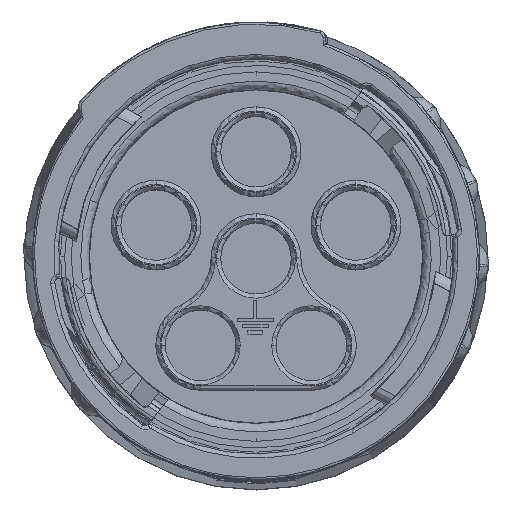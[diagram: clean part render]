
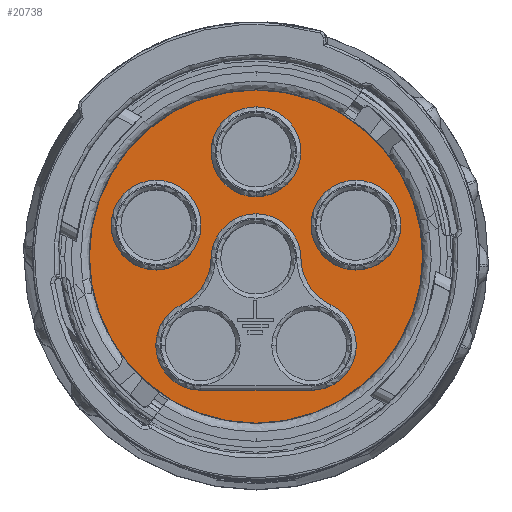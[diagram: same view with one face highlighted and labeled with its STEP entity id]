
A CAD part, top view. The second image highlights one B-rep face of the part: STEP entity #20738.
In plain terms, the highlighted planar face has unit normal (0, 0, 1).
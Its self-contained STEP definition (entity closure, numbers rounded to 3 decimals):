
#808 = ORIENTED_EDGE ( 'NONE', *, *, #3790, .T. ) ;
#1075 = ORIENTED_EDGE ( 'NONE', *, *, #70881, .T. ) ;
#3790 = EDGE_CURVE ( 'NONE', #67238, #34774, #51478, .T. ) ;
#4089 = DIRECTION ( 'NONE',  ( -1., 0., 0. ) ) ;
#8373 = EDGE_LOOP ( 'NONE', ( #19849, #808, #22223, #18314, #53133, #105508, #73187 ) ) ;
#9440 = VECTOR ( 'NONE', #4089, 1000. ) ;
#10987 = DIRECTION ( 'NONE',  ( 0., 0., 1. ) ) ;
#11704 = CARTESIAN_POINT ( 'NONE',  ( 4.675, 1.467, 679.7 ) ) ;
#11847 = CARTESIAN_POINT ( 'NONE',  ( 4.599, -0.021, 679.7 ) ) ;
#12047 = FACE_BOUND ( 'NONE', #87916, .T. ) ;
#12188 = EDGE_LOOP ( 'NONE', ( #53317, #69734 ) ) ;
#13072 = DIRECTION ( 'NONE',  ( 0., 0., -1. ) ) ;
#13661 = DIRECTION ( 'NONE',  ( 1., 0., 0. ) ) ;
#16404 = VERTEX_POINT ( 'NONE', #70785 ) ;
#17188 = EDGE_CURVE ( 'NONE', #65934, #38911, #31789, .T. ) ;
#17493 = VERTEX_POINT ( 'NONE', #86057 ) ;
#18314 = ORIENTED_EDGE ( 'NONE', *, *, #54120, .T. ) ;
#18472 = EDGE_CURVE ( 'NONE', #92286, #99213, #28796, .T. ) ;
#19849 = ORIENTED_EDGE ( 'NONE', *, *, #69137, .F. ) ;
#20738 = ADVANCED_FACE ( 'NONE', ( #88211, #12047, #30678, #51815, #61387 ), #63370, .T. ) ;
#21387 = CARTESIAN_POINT ( 'NONE',  ( 0., -0.1, 679.7 ) ) ;
#21804 = CARTESIAN_POINT ( 'NONE',  ( 2.1, -0.064, 679.7 ) ) ;
#21812 = DIRECTION ( 'NONE',  ( 1., 0., 0. ) ) ;
#22223 = ORIENTED_EDGE ( 'NONE', *, *, #53262, .T. ) ;
#22453 = DIRECTION ( 'NONE',  ( 1., 0., 0. ) ) ;
#22499 = CIRCLE ( 'NONE', #53366, 2.1 ) ;
#22868 = AXIS2_PLACEMENT_3D ( 'NONE', #21387, #104665, #22453 ) ;
#24899 = CARTESIAN_POINT ( 'NONE',  ( -4.599, -0.021, 679.7 ) ) ;
#26882 = CIRCLE ( 'NONE', #85238, 2.1 ) ;
#27379 = CARTESIAN_POINT ( 'NONE',  ( -2.1, -0.064, 679.7 ) ) ;
#27789 = DIRECTION ( 'NONE',  ( 1., 0., 0. ) ) ;
#28670 = CARTESIAN_POINT ( 'NONE',  ( -4.675, 1.467, 679.7 ) ) ;
#28796 = CIRCLE ( 'NONE', #97398, 7.798 ) ;
#29027 = DIRECTION ( 'NONE',  ( 0., 0., -1. ) ) ;
#30678 = FACE_BOUND ( 'NONE', #65446, .T. ) ;
#31789 = CIRCLE ( 'NONE', #91866, 2.1 ) ;
#33495 = DIRECTION ( 'NONE',  ( 1., 0., 0. ) ) ;
#33555 = ORIENTED_EDGE ( 'NONE', *, *, #103617, .T. ) ;
#34738 = DIRECTION ( 'NONE',  ( 1., 0., 0. ) ) ;
#34774 = VERTEX_POINT ( 'NONE', #104321 ) ;
#36035 = CIRCLE ( 'NONE', #97812, 2.1 ) ;
#37414 = CARTESIAN_POINT ( 'NONE',  ( 4.675, 1.467, 679.7 ) ) ;
#38911 = VERTEX_POINT ( 'NONE', #58027 ) ;
#39010 = DIRECTION ( 'NONE',  ( 1., 0., 0. ) ) ;
#40649 = CARTESIAN_POINT ( 'NONE',  ( 7.798, 0., 679.7 ) ) ;
#41446 = VERTEX_POINT ( 'NONE', #21804 ) ;
#41620 = DIRECTION ( 'NONE',  ( 1., 0., 0. ) ) ;
#41862 = CIRCLE ( 'NONE', #79552, 7.798 ) ;
#43814 = CARTESIAN_POINT ( 'NONE',  ( -2.1, 4.9, 679.7 ) ) ;
#44488 = AXIS2_PLACEMENT_3D ( 'NONE', #11704, #70727, #103583 ) ;
#46430 = EDGE_CURVE ( 'NONE', #38911, #65934, #88223, .T. ) ;
#46450 = DIRECTION ( 'NONE',  ( 1., 0., 0. ) ) ;
#47065 = DIRECTION ( 'NONE',  ( 0., 0., -1. ) ) ;
#47402 = CIRCLE ( 'NONE', #81768, 2.5 ) ;
#49744 = AXIS2_PLACEMENT_3D ( 'NONE', #70022, #54434, #46450 ) ;
#50169 = DIRECTION ( 'NONE',  ( 0., 0., -1. ) ) ;
#51419 = EDGE_CURVE ( 'NONE', #82396, #41446, #78012, .T. ) ;
#51478 = CIRCLE ( 'NONE', #49744, 2.1 ) ;
#51815 = FACE_OUTER_BOUND ( 'NONE', #12188, .T. ) ;
#52420 = CARTESIAN_POINT ( 'NONE',  ( 0., 0., 679.7 ) ) ;
#53133 = ORIENTED_EDGE ( 'NONE', *, *, #58340, .T. ) ;
#53205 = CIRCLE ( 'NONE', #85841, 2.1 ) ;
#53262 = EDGE_CURVE ( 'NONE', #34774, #17493, #93848, .T. ) ;
#53317 = ORIENTED_EDGE ( 'NONE', *, *, #77370, .T. ) ;
#53366 = AXIS2_PLACEMENT_3D ( 'NONE', #91558, #67319, #41620 ) ;
#54120 = EDGE_CURVE ( 'NONE', #17493, #94859, #55870, .T. ) ;
#54434 = DIRECTION ( 'NONE',  ( 0., 0., -1. ) ) ;
#54509 = ORIENTED_EDGE ( 'NONE', *, *, #61832, .T. ) ;
#54985 = CARTESIAN_POINT ( 'NONE',  ( -2.591, -4.159, 679.7 ) ) ;
#55521 = AXIS2_PLACEMENT_3D ( 'NONE', #99663, #106151, #82485 ) ;
#55870 = CIRCLE ( 'NONE', #98903, 2.1 ) ;
#57819 = CARTESIAN_POINT ( 'NONE',  ( 3.508, -2.27, 679.7 ) ) ;
#58027 = CARTESIAN_POINT ( 'NONE',  ( -2.575, 1.467, 679.7 ) ) ;
#58147 = CIRCLE ( 'NONE', #90871, 2.5 ) ;
#58340 = EDGE_CURVE ( 'NONE', #94859, #98662, #53205, .T. ) ;
#59372 = DIRECTION ( 'NONE',  ( 0., 0., 1. ) ) ;
#60988 = DIRECTION ( 'NONE',  ( 0., 0., -1. ) ) ;
#61387 = FACE_BOUND ( 'NONE', #8373, .T. ) ;
#61832 = EDGE_CURVE ( 'NONE', #81561, #91900, #26882, .T. ) ;
#61919 = DIRECTION ( 'NONE',  ( 1., 0., 0. ) ) ;
#63370 = PLANE ( 'NONE',  #101316 ) ;
#65446 = EDGE_LOOP ( 'NONE', ( #54509, #1075 ) ) ;
#65934 = VERTEX_POINT ( 'NONE', #85197 ) ;
#66405 = ORIENTED_EDGE ( 'NONE', *, *, #46430, .T. ) ;
#67238 = VERTEX_POINT ( 'NONE', #57819 ) ;
#67319 = DIRECTION ( 'NONE',  ( 0., 0., -1. ) ) ;
#69137 = EDGE_CURVE ( 'NONE', #67238, #41446, #47402, .T. ) ;
#69734 = ORIENTED_EDGE ( 'NONE', *, *, #18472, .T. ) ;
#70006 = CARTESIAN_POINT ( 'NONE',  ( 0., 0., 679.7 ) ) ;
#70022 = CARTESIAN_POINT ( 'NONE',  ( 2.591, -4.159, 679.7 ) ) ;
#70102 = CIRCLE ( 'NONE', #44488, 2.1 ) ;
#70727 = DIRECTION ( 'NONE',  ( 0., 0., -1. ) ) ;
#70785 = CARTESIAN_POINT ( 'NONE',  ( 2.1, 4.9, 679.7 ) ) ;
#70881 = EDGE_CURVE ( 'NONE', #91900, #81561, #70102, .T. ) ;
#73187 = ORIENTED_EDGE ( 'NONE', *, *, #51419, .T. ) ;
#75849 = ORIENTED_EDGE ( 'NONE', *, *, #17188, .T. ) ;
#77103 = CARTESIAN_POINT ( 'NONE',  ( -7.797, 0., 679.7 ) ) ;
#77370 = EDGE_CURVE ( 'NONE', #99213, #92286, #41862, .T. ) ;
#77687 = CARTESIAN_POINT ( 'NONE',  ( -2.591, -6.259, 679.7 ) ) ;
#78012 = CIRCLE ( 'NONE', #22868, 2.1 ) ;
#79285 = DIRECTION ( 'NONE',  ( 0., 0., -1. ) ) ;
#79552 = AXIS2_PLACEMENT_3D ( 'NONE', #70006, #102852, #61919 ) ;
#80539 = CARTESIAN_POINT ( 'NONE',  ( -3.508, -2.27, 679.7 ) ) ;
#81561 = VERTEX_POINT ( 'NONE', #97610 ) ;
#81768 = AXIS2_PLACEMENT_3D ( 'NONE', #11847, #29027, #103722 ) ;
#82291 = CARTESIAN_POINT ( 'NONE',  ( -4.691, -4.159, 679.7 ) ) ;
#82396 = VERTEX_POINT ( 'NONE', #27379 ) ;
#82485 = DIRECTION ( 'NONE',  ( 1., 0., 0. ) ) ;
#84615 = DIRECTION ( 'NONE',  ( 1., 0., 0. ) ) ;
#84751 = CARTESIAN_POINT ( 'NONE',  ( -2.591, -4.159, 679.7 ) ) ;
#85136 = CARTESIAN_POINT ( 'NONE',  ( 0., 0., 679.7 ) ) ;
#85197 = CARTESIAN_POINT ( 'NONE',  ( -6.775, 1.467, 679.7 ) ) ;
#85238 = AXIS2_PLACEMENT_3D ( 'NONE', #37414, #47065, #39010 ) ;
#85841 = AXIS2_PLACEMENT_3D ( 'NONE', #54985, #86772, #13661 ) ;
#86057 = CARTESIAN_POINT ( 'NONE',  ( -2.591, -6.259, 679.7 ) ) ;
#86772 = DIRECTION ( 'NONE',  ( 0., 0., -1. ) ) ;
#87327 = EDGE_CURVE ( 'NONE', #94533, #16404, #22499, .T. ) ;
#87916 = EDGE_LOOP ( 'NONE', ( #100090, #33555 ) ) ;
#88211 = FACE_BOUND ( 'NONE', #103098, .T. ) ;
#88223 = CIRCLE ( 'NONE', #55521, 2.1 ) ;
#89745 = CARTESIAN_POINT ( 'NONE',  ( 6.775, 1.467, 679.7 ) ) ;
#90871 = AXIS2_PLACEMENT_3D ( 'NONE', #24899, #50169, #33495 ) ;
#91558 = CARTESIAN_POINT ( 'NONE',  ( 0., 4.9, 679.7 ) ) ;
#91866 = AXIS2_PLACEMENT_3D ( 'NONE', #28670, #13072, #102294 ) ;
#91900 = VERTEX_POINT ( 'NONE', #89745 ) ;
#92286 = VERTEX_POINT ( 'NONE', #40649 ) ;
#93848 = LINE ( 'NONE', #77687, #9440 ) ;
#94533 = VERTEX_POINT ( 'NONE', #43814 ) ;
#94859 = VERTEX_POINT ( 'NONE', #82291 ) ;
#95279 = EDGE_CURVE ( 'NONE', #82396, #98662, #58147, .T. ) ;
#97398 = AXIS2_PLACEMENT_3D ( 'NONE', #52420, #59372, #34738 ) ;
#97610 = CARTESIAN_POINT ( 'NONE',  ( 2.575, 1.467, 679.7 ) ) ;
#97812 = AXIS2_PLACEMENT_3D ( 'NONE', #104567, #79285, #21812 ) ;
#98662 = VERTEX_POINT ( 'NONE', #80539 ) ;
#98903 = AXIS2_PLACEMENT_3D ( 'NONE', #84751, #60988, #27789 ) ;
#99213 = VERTEX_POINT ( 'NONE', #77103 ) ;
#99663 = CARTESIAN_POINT ( 'NONE',  ( -4.675, 1.467, 679.7 ) ) ;
#100090 = ORIENTED_EDGE ( 'NONE', *, *, #87327, .T. ) ;
#101316 = AXIS2_PLACEMENT_3D ( 'NONE', #85136, #10987, #84615 ) ;
#102294 = DIRECTION ( 'NONE',  ( 1., 0., 0. ) ) ;
#102852 = DIRECTION ( 'NONE',  ( 0., 0., 1. ) ) ;
#103098 = EDGE_LOOP ( 'NONE', ( #75849, #66405 ) ) ;
#103583 = DIRECTION ( 'NONE',  ( 1., 0., 0. ) ) ;
#103617 = EDGE_CURVE ( 'NONE', #16404, #94533, #36035, .T. ) ;
#103722 = DIRECTION ( 'NONE',  ( 1., 0., 0. ) ) ;
#104321 = CARTESIAN_POINT ( 'NONE',  ( 2.591, -6.259, 679.7 ) ) ;
#104567 = CARTESIAN_POINT ( 'NONE',  ( 0., 4.9, 679.7 ) ) ;
#104665 = DIRECTION ( 'NONE',  ( 0., 0., -1. ) ) ;
#105508 = ORIENTED_EDGE ( 'NONE', *, *, #95279, .F. ) ;
#106151 = DIRECTION ( 'NONE',  ( 0., 0., -1. ) ) ;
